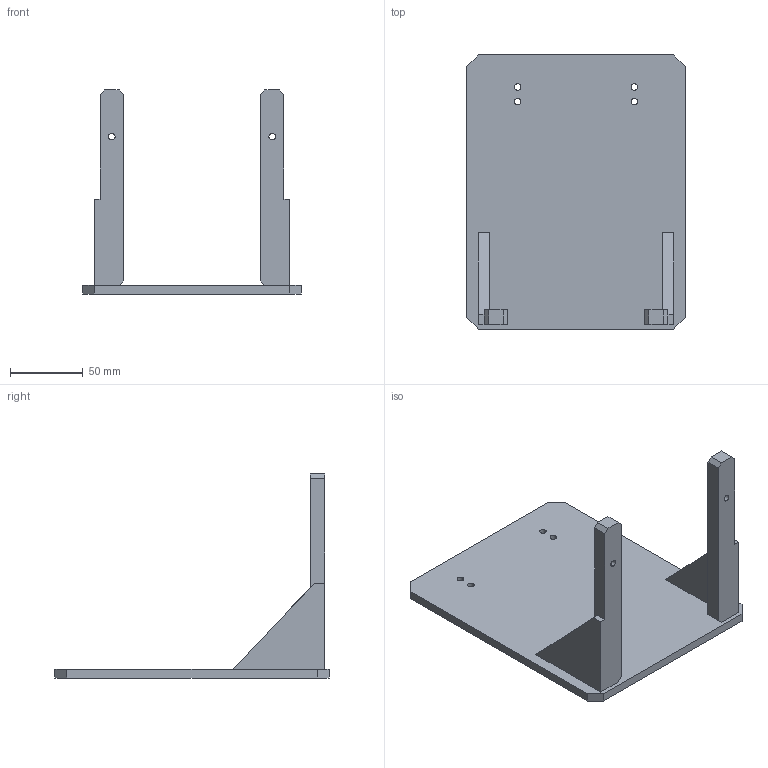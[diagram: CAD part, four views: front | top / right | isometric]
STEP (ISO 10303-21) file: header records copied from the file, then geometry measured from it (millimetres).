
FILE_DESCRIPTION (( 'STEP AP203' ), '1' );
FILE_NAME ('03_fixed_base.step', '2026-10-07T08:36:35', ( '' ), ( '' ), 'SwSTEP 2.0', 'SolidWorks 2025', '' );
FILE_SCHEMA (( 'CONFIG_CONTROL_DESIGN' ));
Length unit declared in the file: millimetre
Products named in the file (1): 03_fixed_base
Bounding box: 150 x 188 x 140 mm (x, y, z)
Volume: 238700.1 mm3; surface area: 80754.2 mm2
Topology: 1 solids, 1 shells, 46 faces, 126 edges, 84 vertices
Faces by surface type: plane 34, cylinder 12
Entity records: 1555 total; most frequent: CARTESIAN_POINT 257, ORIENTED_EDGE 252, DIRECTION 244, EDGE_CURVE 126, LINE 102, VECTOR 102, VERTEX_POINT 84, AXIS2_PLACEMENT_3D 71
